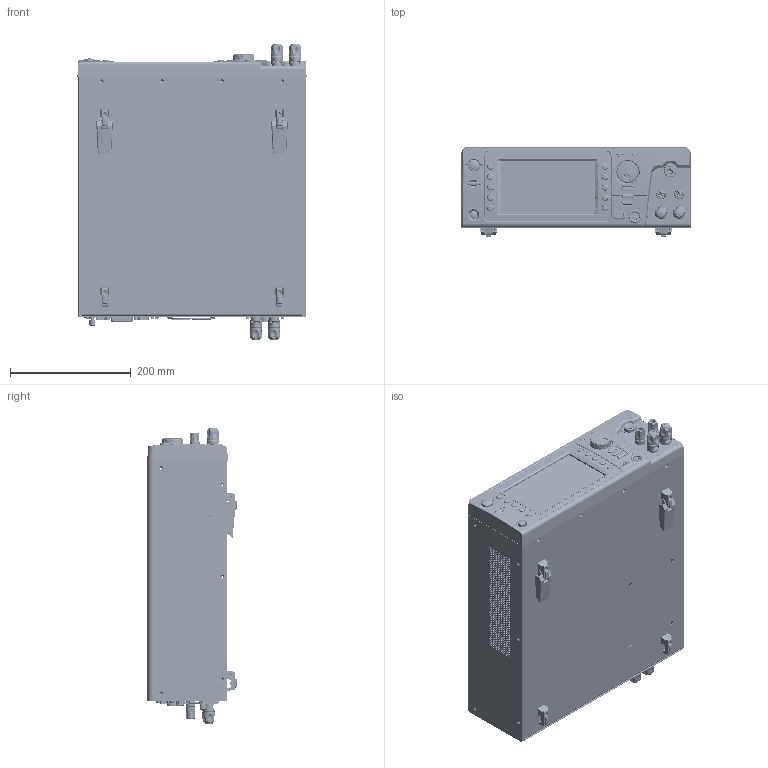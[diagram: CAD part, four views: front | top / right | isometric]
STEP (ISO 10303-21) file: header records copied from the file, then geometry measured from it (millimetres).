
FILE_DESCRIPTION((''),'2;1');
FILE_NAME('GPT-15003-500VA-C_ASM','2020-09-02T14:54:01',('mike_lee'),(''),'CREO PARAMETRIC BY PTC INC, 2019080','CREO PARAMETRIC BY PTC INC, 2019080','');
FILE_SCHEMA(('CONFIG_CONTROL_DESIGN'));
Products named in the file (132): GPT10K_F_ASM_SKEL; 3171-15400201-VTO70E-KN07-I01; 62PT-10KHP501; 57RG-20B05801; 57RG-20B05901; GPT10K_LCD7_ASM_ASM; GPT10K_F_PCB; REMOTE_SOCKET_YE0506; USB-V; ENCODE_SW-R126EC-D1-25; SS-01GL; LED-RIGHT; BL112-50RU; CTT-1137; 3112-06T10101; GPT10K_F_PCB_ASM_ASM; 63FP-SG102901; INSERT-CU; 63FP-SG102901_ASM; 57RB-40G14301; 57RB-40G14401; 57RB-40G14501; 5005-350G0101; 63TS-OG100201; 44BJ-K0100701; NUT-M6; NEW_HVOUT_PNP_ASM; 5002-180R0101; 5052-240N0101; 5004-130G010; 63LB-BF100701; NEW-45A-TERMINAL_ASM_SKEL0001; 63TS-XG100201; 63TS-XG100201-CU; 63TS-XG100201_ASM; 63TS-XG100301; 63TS-XG100401; 63TS-XG100401-CU; 63TS-XG100401_ASM; 63TS-AR100101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
Assembly tree (260 placements, depth 6):
  GPT-15003-500VA-C_ASM
    GPT10K_F_ASM_ASM
      GPT10K_F_ASM_SKEL
      GPT10K_F_ASM-E_ASM
        GPT10K_F_PCB_ASM_ASM
          GPT10K_LCD7_ASM_ASM
            3171-15400201-VTO70E-KN07-I01
            62PT-10KHP501
            57RG-20B05801  x2
            57RG-20B05901  x2
          GPT10K_F_PCB
          REMOTE_SOCKET_YE0506
          USB-V
          ENCODE_SW-R126EC-D1-25
          SS-01GL  x2
          LED-RIGHT  x5
          BL112-50RU
          CTT-1137  x13
          3112-06T10101  x6
        63FP-SG102901_ASM
          63FP-SG102901
          INSERT-CU  x17
        57RB-40G14301
        57RB-40G14401
        57RB-40G14501
        5005-350G0101
        NEW_HVOUT_PNP_ASM
          63TS-OG100201
          44BJ-K0100701
          NUT-M6  x2
        5002-180R0101
        5052-240N0101
        5004-130G010
        63LB-BF100701  x2
        NEW-45A-TERMINAL_ASM_ASM  x2
          NEW-45A-TERMINAL_ASM_SKEL0001
          63TS-XG100201_ASM
            63TS-XG100201
            63TS-XG100201-CU
          63TS-XG100301
          63TS-XG100401_ASM
            63TS-XG100401
            63TS-XG100401-CU
          63TS-AR100101
          61PF-052140N1-5-14-1T
          6001-CN0050J1
          61PF-052100N1-5-10-1T
          SPRING-WASHER-T1
        GPT10K_TERMINAL_ASM_ASM
          63TS-NB100301_ASM
            GPT10K_TERM_SET_HP
            GPT10K_TERM_SET
          63SC-XF100701
          63TS-XG100101_ASM
            63TS-XG100101
            63TS-XG100101-HP
          63TS-NB100201
          NUT-M6  x2
          WASHER-FLAT-6MM  x2
          51EL-31110201
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Bounding box: 380 x 148.34 x 491.51 mm (x, y, z)
Volume: 1256997.4 mm3; surface area: 1703884.8 mm2
Topology: 289 solids, 289 shells, 17518 faces, 44460 edges, 28324 vertices
Faces by surface type: plane 8431, cylinder 4972, cone 1910, bspline 974, torus 640, extrusion 320, sphere 261, revolution 10
Entity records: 442000 total; most frequent: CARTESIAN_POINT 166033, ORIENTED_EDGE 57304, DIRECTION 55365, EDGE_CURVE 28652, AXIS2_PLACEMENT_3D 19337, VERTEX_POINT 18350, VECTOR 16687, LINE 16497
